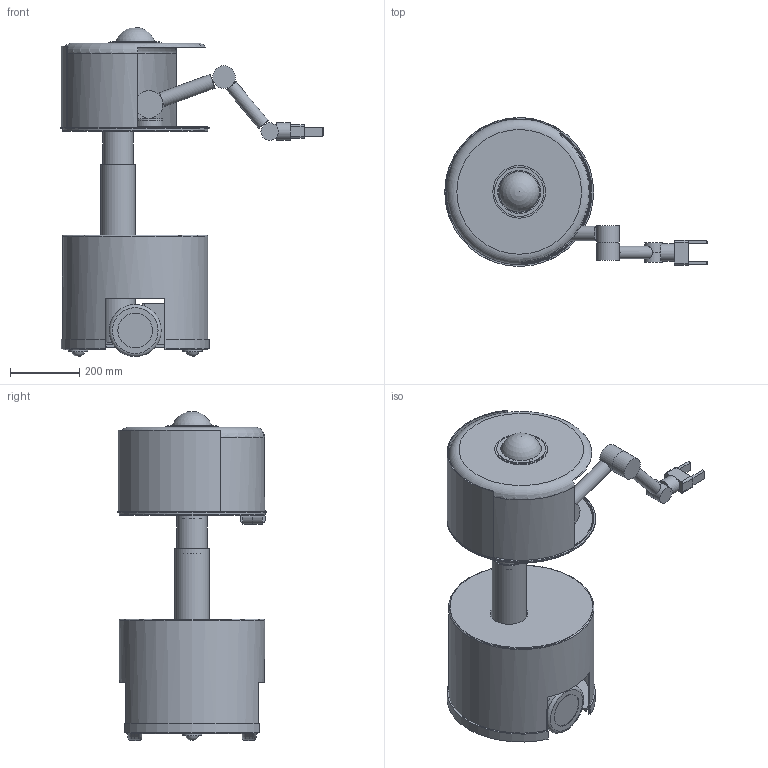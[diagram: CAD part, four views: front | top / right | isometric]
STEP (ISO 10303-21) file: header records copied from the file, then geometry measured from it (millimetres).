
FILE_DESCRIPTION(('Open CASCADE Model'),'2;1');
FILE_NAME('Open CASCADE Shape Model','2026-10-19T19:48:08',('Author'),( 'Open CASCADE'),'Open CASCADE STEP processor 7.9','Open CASCADE 7.9' ,'Unknown');
FILE_SCHEMA(('AUTOMOTIVE_DESIGN { 1 0 10303 214 1 1 1 1 }'));
Length unit declared in the file: millimetre
Products named in the file (51): HR1_home_robot; base_shell; base_bumper; base_chassis_plate; wheel_tire_L; wheel_hub_L; drive_motor_L; motor_bracket_L; wheel_tire_R; wheel_hub_R; drive_motor_R; motor_bracket_R; caster_housing_F; caster_ball_F; caster_housing_B; caster_ball_B; battery_pack; electronics_tray; column_stage0; column_flange; column_stage1; column_bushing1; column_stage2; column_bushing2; column_stage3; column_bushing3; column_actuator; upper_shell; upper_base_plate; upper_bridge; upper_post_L; upper_post_R; arm_door; door_track; dome_trim; dome_light; camera_pan_base; camera_eye; camera_lens; camera_dome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
Assembly tree (50 placements, depth 2):
  HR1_home_robot
    base_shell
    base_bumper
    base_chassis_plate
    wheel_tire_L
    wheel_hub_L
    drive_motor_L
    motor_bracket_L
    wheel_tire_R
    wheel_hub_R
    drive_motor_R
    motor_bracket_R
    caster_housing_F
    caster_ball_F
    caster_housing_B
    caster_ball_B
    battery_pack
    electronics_tray
    column_stage0
    column_flange
    column_stage1
    column_bushing1
    column_stage2
    column_bushing2
    column_stage3
    column_bushing3
    column_actuator
    upper_shell
    upper_base_plate
    upper_bridge
    upper_post_L
    upper_post_R
    arm_door
    door_track
    dome_trim
    dome_light
    camera_pan_base
    camera_eye
    camera_lens
    camera_dome
    arm_j1_actuator
    arm_turret
    arm_j2_actuator
    arm_upper_link
    arm_j3_actuator
    arm_fore_link
    arm_j4_actuator
    arm_j5_actuator
    gripper_body
    gripper_finger_L
    gripper_finger_R
Bounding box: 757.9 x 430 x 950 mm (x, y, z)
Volume: 13287649.1 mm3; surface area: 4331721 mm2
Topology: 52 solids, 52 shells, 265 faces, 482 edges, 312 vertices
Faces by surface type: plane 159, cylinder 91, torus 10, sphere 5
Full cylindrical faces by diameter (mm): 8 x1, 18 x1, 22 x4, 28 x1, 36 x1, 42 x1, 50 x3, 56 x2, 58 x1, 60 x4, 64 x2, 66 x2, 70 x3, 76 x2, 80 x4, 82 x2, 88 x2, 94 x2, 96 x1, 100 x9, 108 x2, 118 x1, 124 x1, 140 x1, 142 x2, 150 x4, 152 x1, 412 x1, 414 x2, 418 x1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
Entity records: 14166 total; most frequent: CARTESIAN_POINT 2806, DIRECTION 2035, ORIENTED_EDGE 942, PCURVE 942, DEFINITIONAL_REPRESENTATION 942, LINE 905, VECTOR 905, AXIS2_PLACEMENT_3D 516
